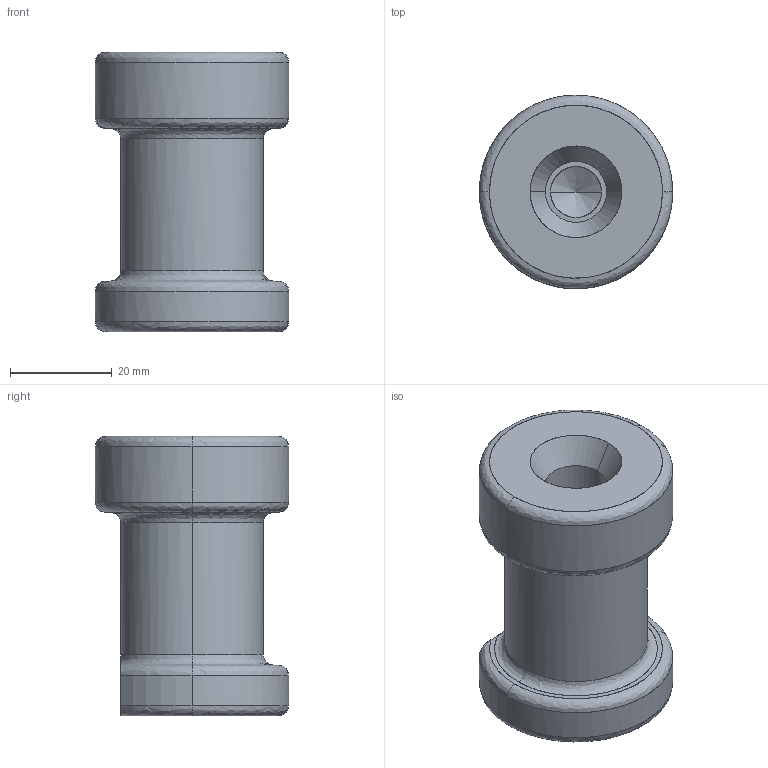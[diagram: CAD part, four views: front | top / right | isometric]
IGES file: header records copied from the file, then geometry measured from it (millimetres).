
Global section: file name: E:\UnigraphicsGraphicData\MISUMI_PRESS-PARTS\IGES\3d_csn12_03661_r00.igs; native system: NX V5.0; preprocessor: UGS NX IGES V5.0; author: MISUMI; date: 20110105.160454; units: millimetre
Bounding box: 38 x 37.98 x 55 mm (x, y, z)
Surface area: 9617.1 mm2 (no closed solid volume)
Topology: 0 solids, 0 shells, 36 faces, 255 edges, 253 vertices
Faces by surface type: bspline 36
